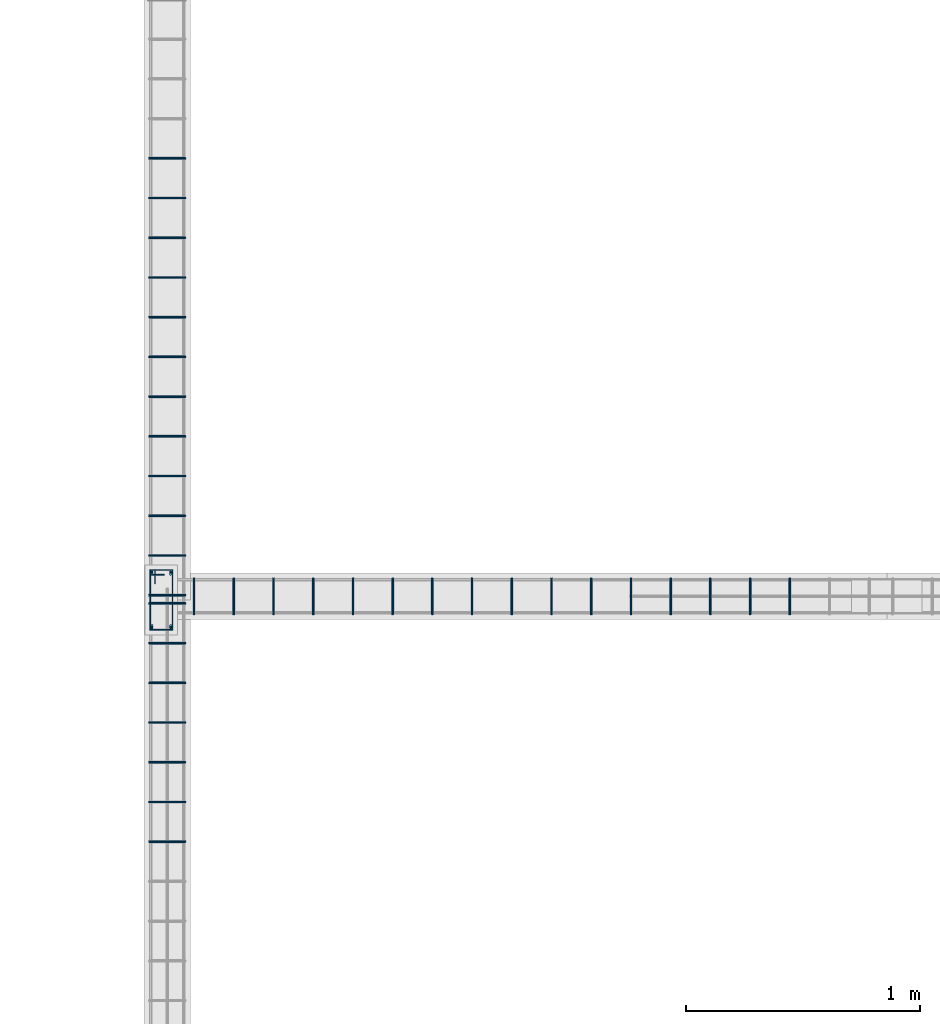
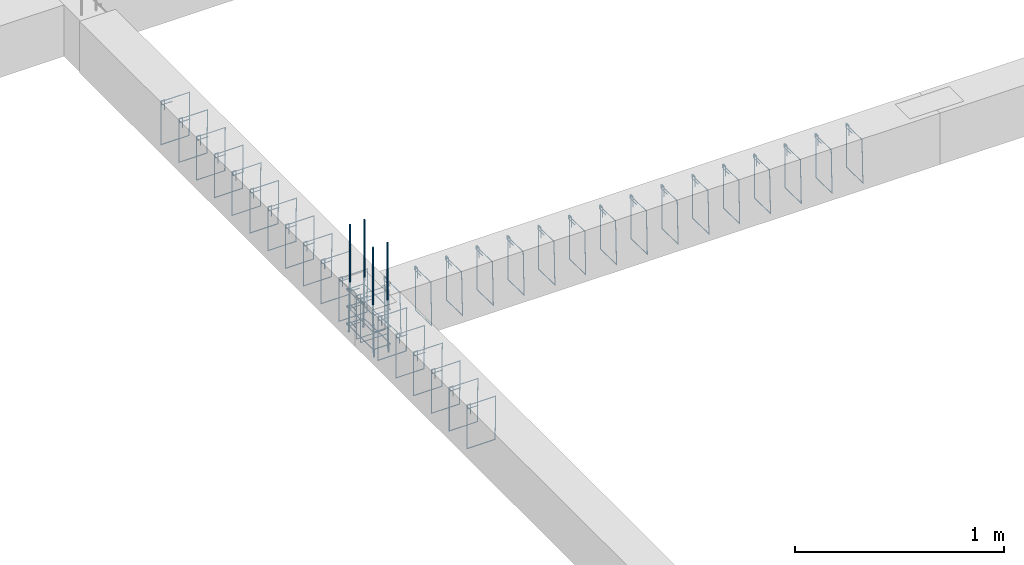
# One storey, part 85 of 150: 42 reinforcing bars.
"""IFC4 building model written with IfcOpenShell, lengths in centimetres."""

from ifc_helpers import new_model, entity, si_unit, derived_unit, frame, origin_with_axes, place, context, project, spatial, source, transform, mapped, element, save


model = new_model("IFC4")

# Units and contexts
model_context = context("Model", 3, precision=1e-05, world=origin_with_axes(), identifier="Body")
ifc_project = project(units=[si_unit("LENGTHUNIT", "METRE", prefix="CENTI"), si_unit("VOLUMEUNIT", "CUBIC_METRE"), si_unit("AREAUNIT", "SQUARE_METRE"), si_unit("POWERUNIT", "WATT"), si_unit("LUMINOUSFLUXUNIT", "LUMEN"), si_unit("ELECTRICCURRENTUNIT", "AMPERE"), si_unit("PRESSUREUNIT", "PASCAL", prefix="KILO"), si_unit("MASSUNIT", "GRAM", prefix="KILO"), si_unit("PLANEANGLEUNIT", "RADIAN"), derived_unit("VOLUMETRICFLOWRATEUNIT", [(si_unit("LENGTHUNIT", "METRE"), 3), (si_unit("TIMEUNIT", "SECOND"), -1)])], contexts=[model_context])

# Site, building, storey
site_placement = place(None, frame((-4000.0, 0.0, 0.0), z_axis=(0.0, 0.0, 1.0), x_axis=(1.0, 0.0, 0.0)))
site = spatial("IfcSite", under=ifc_project, at=site_placement, Name="PADRÃO")
building_placement = place(site_placement, frame((0.0, 0.0, -14.0)))
building = spatial("IfcBuilding", under=site, at=building_placement, Name="CRECHE PRÉ-ESCOLA TIPO 2")
placement = place(building_placement, origin_with_axes())
storey_placement = place(placement, frame((0.0, 0.0, 30.0), z_axis=(0.0, 0.0, 1.0), x_axis=(1.0, 0.0, 0.0)))
storey = spatial("IfcBuildingStorey", under=building, at=storey_placement, Name="VIGA BALDRAME", CompositionType="ELEMENT", Elevation=16.0)

# Reinforcing bars
shared_shape_1 = source(origin_with_axes(), model_context, "Body", "AdvancedSweptSolid", [
    entity("IfcSweptDiskSolid", entity("IfcCompositeCurve", [entity("IfcCompositeCurveSegment", "CONTINUOUS", True, entity("IfcPolyline", [entity("IfcCartesianPoint", [4.25, 21.75, 0.0]), entity("IfcCartesianPoint", [4.25, 27.75, 0.0])])), entity("IfcCompositeCurveSegment", "CONTINUOUS", True, entity("IfcPolyline", [entity("IfcCartesianPoint", [4.25, 27.75, 0.0]), entity("IfcCartesianPoint", [2.25, 27.75, 0.0])])), entity("IfcCompositeCurveSegment", "CONTINUOUS", True, entity("IfcPolyline", [entity("IfcCartesianPoint", [2.25, 27.75, 0.0]), entity("IfcCartesianPoint", [2.25, 2.25, 0.0])])), entity("IfcCompositeCurveSegment", "CONTINUOUS", True, entity("IfcPolyline", [entity("IfcCartesianPoint", [2.25, 2.25, 0.0]), entity("IfcCartesianPoint", [11.75, 2.25, 0.0])])), entity("IfcCompositeCurveSegment", "CONTINUOUS", True, entity("IfcPolyline", [entity("IfcCartesianPoint", [11.75, 2.25, 0.0]), entity("IfcCartesianPoint", [11.75, 27.75, -0.5])])), entity("IfcCompositeCurveSegment", "CONTINUOUS", True, entity("IfcPolyline", [entity("IfcCartesianPoint", [11.75, 27.75, -0.5]), entity("IfcCartesianPoint", [2.25, 27.75, -0.5])])), entity("IfcCompositeCurveSegment", "CONTINUOUS", True, entity("IfcPolyline", [entity("IfcCartesianPoint", [2.25, 27.75, -0.5]), entity("IfcCartesianPoint", [2.25, 25.75, -0.5])])), entity("IfcCompositeCurveSegment", "CONTINUOUS", True, entity("IfcPolyline", [entity("IfcCartesianPoint", [2.25, 25.75, -0.5]), entity("IfcCartesianPoint", [8.25, 25.75, -0.5])]))], False), 0.25),
])
for number, where, z_axis, x_axis, name in (
    (1, (2516.5, 2896.02, -15.0), (0.0, 0.0, 1.0), (1.0, 0.0, 0.0), "P60 - Estribo"),
    (2, (2516.5, 2896.02, -5.0), (0.0, 0.0, 1.0), (1.0, 0.0, 0.0), "P60 - Estribo"),
    (3, (2516.5, 2896.02, -25.0), (0.0, 0.0, 1.0), (1.0, 0.0, 0.0), "P60 - Estribo"),
):
    element("IfcReinforcingBar", number, at=place(storey_placement, frame(where, z_axis=z_axis, x_axis=x_axis)), inside=storey, Name=name, BarLength=0.0, CrossSectionArea=1.9634954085e-05, NominalDiameter=0.5, PredefinedType="MAIN", context=model_context, shape_type="MappedRepresentation", body=[
        mapped(shared_shape_1, transform((0.0, 0.0, 0.0), scale=1.0)),
    ])
shared_shape_2 = source(origin_with_axes(), model_context, "Body", "AdvancedSweptSolid", [
    entity("IfcSweptDiskSolid", entity("IfcCompositeCurve", [entity("IfcCompositeCurveSegment", "CONTINUOUS", True, entity("IfcPolyline", [entity("IfcCartesianPoint", [2.0, -6.0, 0.0]), entity("IfcCartesianPoint", [2.0, 0.0, 0.0])])), entity("IfcCompositeCurveSegment", "CONTINUOUS", True, entity("IfcPolyline", [entity("IfcCartesianPoint", [2.0, 0.0, 0.0]), entity("IfcCartesianPoint", [0.0, 0.0, 0.0])])), entity("IfcCompositeCurveSegment", "CONTINUOUS", True, entity("IfcPolyline", [entity("IfcCartesianPoint", [0.0, 0.0, 0.0]), entity("IfcCartesianPoint", [0.0, -25.5, 0.0])])), entity("IfcCompositeCurveSegment", "CONTINUOUS", True, entity("IfcPolyline", [entity("IfcCartesianPoint", [0.0, -25.5, 0.0]), entity("IfcCartesianPoint", [15.5, -25.5, 0.0])])), entity("IfcCompositeCurveSegment", "CONTINUOUS", True, entity("IfcPolyline", [entity("IfcCartesianPoint", [15.5, -25.5, 0.0]), entity("IfcCartesianPoint", [15.5, 0.0, 0.5])])), entity("IfcCompositeCurveSegment", "CONTINUOUS", True, entity("IfcPolyline", [entity("IfcCartesianPoint", [15.5, 0.0, 0.5]), entity("IfcCartesianPoint", [0.0, 0.0, 0.5])])), entity("IfcCompositeCurveSegment", "CONTINUOUS", True, entity("IfcPolyline", [entity("IfcCartesianPoint", [0.0, 0.0, 0.5]), entity("IfcCartesianPoint", [0.0, -2.0, 0.5])])), entity("IfcCompositeCurveSegment", "CONTINUOUS", True, entity("IfcPolyline", [entity("IfcCartesianPoint", [0.0, -2.0, 0.5]), entity("IfcCartesianPoint", [6.0, -2.0, 0.5])]))], False), 0.25),
])
for number, where, z_axis, x_axis, name in (
    (4, (2622.75, 2920.27, -2.25), (-1.0, 0.0, 0.0), (0.0, -1.0, 0.0), "V116 - Estribo"),
    (5, (2673.75, 2920.27, -2.25), (-1.0, 0.0, 0.0), (0.0, -1.0, 0.0), "V116 - Estribo"),
    (6, (2690.75, 2920.27, -2.25), (-1.0, 0.0, 0.0), (0.0, -1.0, 0.0), "V116 - Estribo"),
    (7, (2707.75, 2920.27, -2.25), (-1.0, 0.0, 0.0), (0.0, -1.0, 0.0), "V116 - Estribo"),
    (8, (2724.75, 2920.27, -2.25), (-1.0, 0.0, 0.0), (0.0, -1.0, 0.0), "V116 - Estribo"),
    (9, (2741.75, 2920.27, -2.25), (-1.0, 0.0, 0.0), (0.0, -1.0, 0.0), "V116 - Estribo"),
    (10, (2758.75, 2920.27, -2.25), (-1.0, 0.0, 0.0), (0.0, -1.0, 0.0), "V116 - Estribo"),
    (11, (2605.75, 2920.27, -2.25), (-1.0, 0.0, 0.0), (0.0, -1.0, 0.0), "V116 - Estribo"),
    (12, (2588.75, 2920.27, -2.25), (-1.0, 0.0, 0.0), (0.0, -1.0, 0.0), "V116 - Estribo"),
    (13, (2775.75, 2920.27, -2.25), (-1.0, 0.0, 0.0), (0.0, -1.0, 0.0), "V116 - Estribo"),
    (14, (2792.75, 2920.27, -2.25), (-1.0, 0.0, 0.0), (0.0, -1.0, 0.0), "V116 - Estribo"),
    (15, (2571.75, 2920.27, -2.25), (-1.0, 0.0, 0.0), (0.0, -1.0, 0.0), "V116 - Estribo"),
    (16, (2554.75, 2920.27, -2.25), (-1.0, 0.0, 0.0), (0.0, -1.0, 0.0), "V116 - Estribo"),
    (17, (2537.75, 2920.27, -2.25), (-1.0, 0.0, 0.0), (0.0, -1.0, 0.0), "V116 - Estribo"),
    (18, (2639.75, 2920.27, -2.25), (-1.0, 0.0, 0.0), (0.0, -1.0, 0.0), "V116 - Estribo"),
    (19, (2656.75, 2920.27, -2.25), (-1.0, 0.0, 0.0), (0.0, -1.0, 0.0), "V116 - Estribo"),
):
    element("IfcReinforcingBar", number, at=place(storey_placement, frame(where, z_axis=z_axis, x_axis=x_axis)), inside=storey, Name=name, BarLength=0.0, CrossSectionArea=1.9634954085e-05, NominalDiameter=0.5, PredefinedType="MAIN", context=model_context, shape_type="MappedRepresentation", body=[
        mapped(shared_shape_2, transform((0.0, 0.0, 0.0), scale=1.0)),
    ])
shared_shape_3 = source(origin_with_axes(), model_context, "Body", "AdvancedSweptSolid", [
    entity("IfcSweptDiskSolid", entity("IfcCompositeCurve", [entity("IfcCompositeCurveSegment", "CONTINUOUS", True, entity("IfcPolyline", [entity("IfcCartesianPoint", [2.0, -6.0, 0.0]), entity("IfcCartesianPoint", [2.0, 0.0, 0.0])])), entity("IfcCompositeCurveSegment", "CONTINUOUS", True, entity("IfcPolyline", [entity("IfcCartesianPoint", [2.0, 0.0, 0.0]), entity("IfcCartesianPoint", [0.0, 0.0, 0.0])])), entity("IfcCompositeCurveSegment", "CONTINUOUS", True, entity("IfcPolyline", [entity("IfcCartesianPoint", [0.0, 0.0, 0.0]), entity("IfcCartesianPoint", [0.0, -25.5, 0.0])])), entity("IfcCompositeCurveSegment", "CONTINUOUS", True, entity("IfcPolyline", [entity("IfcCartesianPoint", [0.0, -25.5, 0.0]), entity("IfcCartesianPoint", [15.5, -25.5, 0.0])])), entity("IfcCompositeCurveSegment", "CONTINUOUS", True, entity("IfcPolyline", [entity("IfcCartesianPoint", [15.5, -25.5, 0.0]), entity("IfcCartesianPoint", [15.5, 0.0, 0.5])])), entity("IfcCompositeCurveSegment", "CONTINUOUS", True, entity("IfcPolyline", [entity("IfcCartesianPoint", [15.5, 0.0, 0.5]), entity("IfcCartesianPoint", [0.0, 0.0, 0.5])])), entity("IfcCompositeCurveSegment", "CONTINUOUS", True, entity("IfcPolyline", [entity("IfcCartesianPoint", [0.0, 0.0, 0.5]), entity("IfcCartesianPoint", [0.0, -2.0, 0.5])])), entity("IfcCompositeCurveSegment", "CONTINUOUS", True, entity("IfcPolyline", [entity("IfcCartesianPoint", [0.0, -2.0, 0.5]), entity("IfcCartesianPoint", [6.0, -2.0, 0.5])]))], False), 0.25),
])
for number, where, z_axis, x_axis, name in (
    (20, (2518.25, 2807.77, -2.25), (0.0, -1.0, 0.0), (1.0, 0.0, 0.0), "V198 - Estribo"),
    (21, (2518.25, 2824.77, -2.25), (0.0, -1.0, 0.0), (1.0, 0.0, 0.0), "V198 - Estribo"),
    (22, (2518.25, 2841.77, -2.25), (0.0, -1.0, 0.0), (1.0, 0.0, 0.0), "V198 - Estribo"),
    (23, (2518.25, 2858.77, -2.25), (0.0, -1.0, 0.0), (1.0, 0.0, 0.0), "V198 - Estribo"),
    (24, (2518.25, 2875.77, -2.25), (0.0, -1.0, 0.0), (1.0, 0.0, 0.0), "V198 - Estribo"),
    (25, (2518.25, 2892.77, -2.25), (0.0, -1.0, 0.0), (1.0, 0.0, 0.0), "V198 - Estribo"),
    (26, (2518.25, 2909.77, -2.25), (0.0, -1.0, 0.0), (1.0, 0.0, 0.0), "V198 - Estribo"),
):
    element("IfcReinforcingBar", number, at=place(storey_placement, frame(where, z_axis=z_axis, x_axis=x_axis)), inside=storey, Name=name, BarLength=0.0, CrossSectionArea=1.9634954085e-05, NominalDiameter=0.5, PredefinedType="MAIN", context=model_context, shape_type="MappedRepresentation", body=[
        mapped(shared_shape_3, transform((0.0, 0.0, 0.0), scale=1.0)),
    ])
shared_shape_4 = source(origin_with_axes(), model_context, "Body", "AdvancedSweptSolid", [
    entity("IfcSweptDiskSolid", entity("IfcCompositeCurve", [entity("IfcCompositeCurveSegment", "CONTINUOUS", True, entity("IfcPolyline", [entity("IfcCartesianPoint", [2.0, -6.0, 0.0]), entity("IfcCartesianPoint", [2.0, 0.0, 0.0])])), entity("IfcCompositeCurveSegment", "CONTINUOUS", True, entity("IfcPolyline", [entity("IfcCartesianPoint", [2.0, 0.0, 0.0]), entity("IfcCartesianPoint", [0.0, 0.0, 0.0])])), entity("IfcCompositeCurveSegment", "CONTINUOUS", True, entity("IfcPolyline", [entity("IfcCartesianPoint", [0.0, 0.0, 0.0]), entity("IfcCartesianPoint", [0.0, -25.5, 0.0])])), entity("IfcCompositeCurveSegment", "CONTINUOUS", True, entity("IfcPolyline", [entity("IfcCartesianPoint", [0.0, -25.5, 0.0]), entity("IfcCartesianPoint", [15.5, -25.5, 0.0])])), entity("IfcCompositeCurveSegment", "CONTINUOUS", True, entity("IfcPolyline", [entity("IfcCartesianPoint", [15.5, -25.5, 0.0]), entity("IfcCartesianPoint", [15.5, 0.0, 0.5])])), entity("IfcCompositeCurveSegment", "CONTINUOUS", True, entity("IfcPolyline", [entity("IfcCartesianPoint", [15.5, 0.0, 0.5]), entity("IfcCartesianPoint", [0.0, 0.0, 0.5])])), entity("IfcCompositeCurveSegment", "CONTINUOUS", True, entity("IfcPolyline", [entity("IfcCartesianPoint", [0.0, 0.0, 0.5]), entity("IfcCartesianPoint", [0.0, -2.0, 0.5])])), entity("IfcCompositeCurveSegment", "CONTINUOUS", True, entity("IfcPolyline", [entity("IfcCartesianPoint", [0.0, -2.0, 0.5]), entity("IfcCartesianPoint", [6.0, -2.0, 0.5])]))], False), 0.25),
])
for number, where, z_axis, x_axis, name in (
    (27, (2518.25, 2913.27, -2.25), (0.0, -1.0, 0.0), (1.0, 0.0, 0.0), "V198 - Estribo"),
    (28, (2518.25, 2930.27, -2.25), (0.0, -1.0, 0.0), (1.0, 0.0, 0.0), "V198 - Estribo"),
    (29, (2518.25, 2947.27, -2.25), (0.0, -1.0, 0.0), (1.0, 0.0, 0.0), "V198 - Estribo"),
    (30, (2518.25, 2964.27, -2.25), (0.0, -1.0, 0.0), (1.0, 0.0, 0.0), "V198 - Estribo"),
    (31, (2518.25, 2981.27, -2.25), (0.0, -1.0, 0.0), (1.0, 0.0, 0.0), "V198 - Estribo"),
    (32, (2518.25, 2998.27, -2.25), (0.0, -1.0, 0.0), (1.0, 0.0, 0.0), "V198 - Estribo"),
    (33, (2518.25, 3015.27, -2.25), (0.0, -1.0, 0.0), (1.0, 0.0, 0.0), "V198 - Estribo"),
    (34, (2518.25, 3032.27, -2.25), (0.0, -1.0, 0.0), (1.0, 0.0, 0.0), "V198 - Estribo"),
    (35, (2518.25, 3049.27, -2.25), (0.0, -1.0, 0.0), (1.0, 0.0, 0.0), "V198 - Estribo"),
    (36, (2518.25, 3066.27, -2.25), (0.0, -1.0, 0.0), (1.0, 0.0, 0.0), "V198 - Estribo"),
    (37, (2518.25, 3083.27, -2.25), (0.0, -1.0, 0.0), (1.0, 0.0, 0.0), "V198 - Estribo"),
    (38, (2518.25, 3100.27, -2.25), (0.0, -1.0, 0.0), (1.0, 0.0, 0.0), "V198 - Estribo"),
):
    element("IfcReinforcingBar", number, at=place(storey_placement, frame(where, z_axis=z_axis, x_axis=x_axis)), inside=storey, Name=name, BarLength=0.0, CrossSectionArea=1.9634954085e-05, NominalDiameter=0.5, PredefinedType="MAIN", context=model_context, shape_type="MappedRepresentation", body=[
        mapped(shared_shape_4, transform((0.0, 0.0, 0.0), scale=1.0)),
    ])
reinforcing_bar_1_placement = place(storey_placement, frame((2519.5, 2899.52013877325, 33.3573001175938), z_axis=(0.0, 0.0, 1.0), x_axis=(1.0, 0.0, 0.0)))
element("IfcReinforcingBar", 39, at=reinforcing_bar_1_placement, inside=storey, Name="P60 - Longitudinal", BarLength=0.0, CrossSectionArea=7.853981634e-05, NominalDiameter=1.0, PredefinedType="MAIN", context=model_context, shape_type="AdvancedSweptSolid", body=[
    entity("IfcSweptDiskSolid", entity("IfcCompositeCurve", [entity("IfcCompositeCurveSegment", "CONTINUOUS", True, entity("IfcPolyline", [entity("IfcCartesianPoint", [0.0, -0.500138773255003, -63.3573001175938]), entity("IfcCartesianPoint", [0.0, 0.499861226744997, -33.3573001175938])])), entity("IfcCompositeCurveSegment", "CONTINUOUS", True, entity("IfcPolyline", [entity("IfcCartesianPoint", [0.0, 0.499861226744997, -33.3573001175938]), entity("IfcCartesianPoint", [0.0, 0.499861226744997, 0.0])]))], False), 0.5),
])
reinforcing_bar_2_placement = place(storey_placement, frame((2527.5, 2922.51986122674, 33.3573001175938), z_axis=(0.0, 0.0, 1.0), x_axis=(1.0, 0.0, 0.0)))
element("IfcReinforcingBar", 40, at=reinforcing_bar_2_placement, inside=storey, Name="P60 - Longitudinal", BarLength=0.0, CrossSectionArea=7.853981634e-05, NominalDiameter=1.0, PredefinedType="MAIN", context=model_context, shape_type="AdvancedSweptSolid", body=[
    entity("IfcSweptDiskSolid", entity("IfcCompositeCurve", [entity("IfcCompositeCurveSegment", "CONTINUOUS", True, entity("IfcPolyline", [entity("IfcCartesianPoint", [0.0, 0.500138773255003, -63.3573001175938]), entity("IfcCartesianPoint", [0.0, -0.499861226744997, -33.3573001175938])])), entity("IfcCompositeCurveSegment", "CONTINUOUS", True, entity("IfcPolyline", [entity("IfcCartesianPoint", [0.0, -0.499861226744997, -33.3573001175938]), entity("IfcCartesianPoint", [0.0, -0.499861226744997, 0.0])]))], False), 0.5),
])
reinforcing_bar_3_placement = place(storey_placement, frame((2527.5, 2899.52013877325, 33.3573001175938), z_axis=(0.0, 0.0, 1.0), x_axis=(1.0, 0.0, 0.0)))
element("IfcReinforcingBar", 41, at=reinforcing_bar_3_placement, inside=storey, Name="P60 - Longitudinal", BarLength=0.0, CrossSectionArea=7.853981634e-05, NominalDiameter=1.0, PredefinedType="MAIN", context=model_context, shape_type="AdvancedSweptSolid", body=[
    entity("IfcSweptDiskSolid", entity("IfcCompositeCurve", [entity("IfcCompositeCurveSegment", "CONTINUOUS", True, entity("IfcPolyline", [entity("IfcCartesianPoint", [0.0, -0.500138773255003, -63.3573001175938]), entity("IfcCartesianPoint", [0.0, 0.499861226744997, -33.3573001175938])])), entity("IfcCompositeCurveSegment", "CONTINUOUS", True, entity("IfcPolyline", [entity("IfcCartesianPoint", [0.0, 0.499861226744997, -33.3573001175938]), entity("IfcCartesianPoint", [0.0, 0.499861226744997, 0.0])]))], False), 0.5),
])
reinforcing_bar_4_placement = place(storey_placement, frame((2519.5, 2922.51986122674, 33.3573001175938), z_axis=(0.0, 0.0, 1.0), x_axis=(1.0, 0.0, 0.0)))
element("IfcReinforcingBar", 42, at=reinforcing_bar_4_placement, inside=storey, Name="P60 - Longitudinal", BarLength=0.0, CrossSectionArea=7.853981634e-05, NominalDiameter=1.0, PredefinedType="MAIN", context=model_context, shape_type="AdvancedSweptSolid", body=[
    entity("IfcSweptDiskSolid", entity("IfcCompositeCurve", [entity("IfcCompositeCurveSegment", "CONTINUOUS", True, entity("IfcPolyline", [entity("IfcCartesianPoint", [0.0, 0.500138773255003, -63.3573001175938]), entity("IfcCartesianPoint", [0.0, -0.499861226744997, -33.3573001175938])])), entity("IfcCompositeCurveSegment", "CONTINUOUS", True, entity("IfcPolyline", [entity("IfcCartesianPoint", [0.0, -0.499861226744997, -33.3573001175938]), entity("IfcCartesianPoint", [0.0, -0.499861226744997, 0.0])]))], False), 0.5),
])

save(model, "model.ifc")
